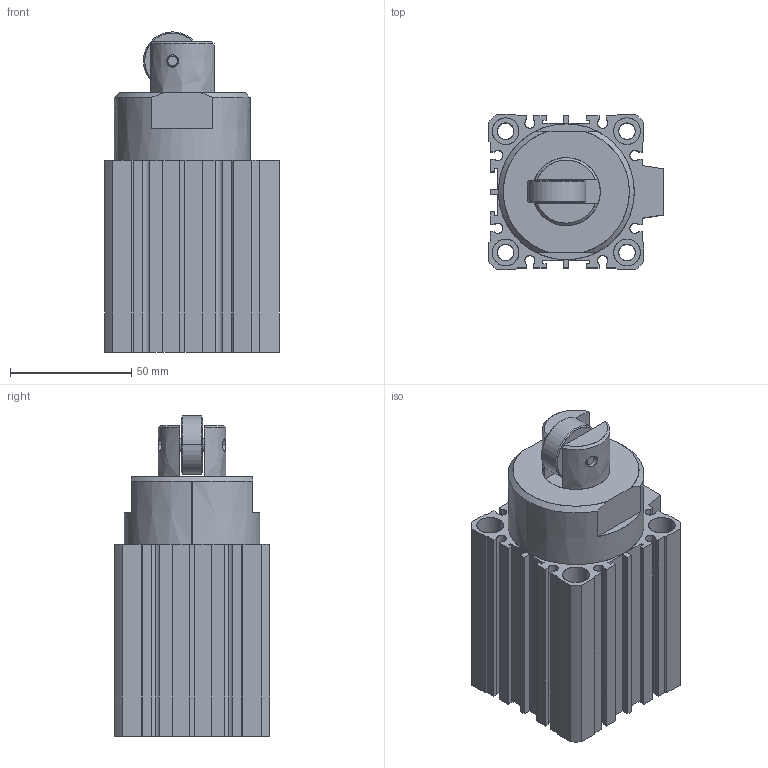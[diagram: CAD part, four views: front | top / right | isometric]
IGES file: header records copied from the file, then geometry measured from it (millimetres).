
Start section: SolidWorks IGES file using analytic representation for surfaces
Global section: file name: C:\Documents and Settings\admin\Bureau\stage de yaya\Plan Philippe Pince\PINCE\VUSB\pièces en 3D\VUSB STEP\ELOC-3DWG\ELOC-50-25-TIGE ENTREE.IGS; native system: SolidWorks 2007; preprocessor: SolidWorks 2007; author: admin; date: 080331.091824; units: millimetre
Bounding box: 72 x 64 x 132 mm (x, y, z)
Surface area: 72675.9 mm2 (no closed solid volume)
Topology: 0 solids, 0 shells, 889 faces, 11085 edges, 11125 vertices
Faces by surface type: bspline 809, revolution 80
